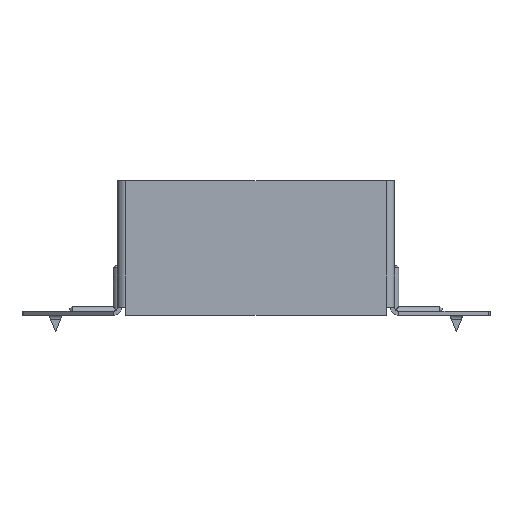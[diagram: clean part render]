
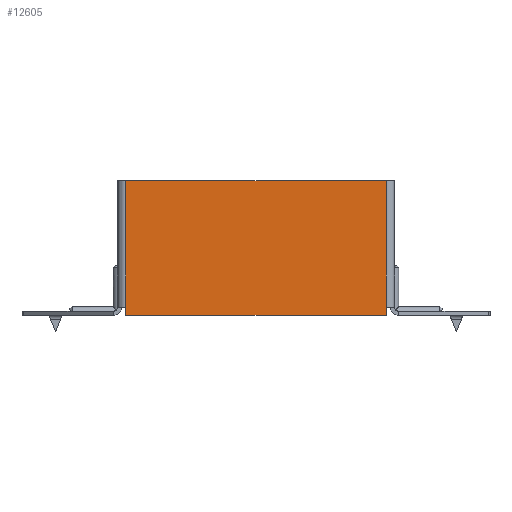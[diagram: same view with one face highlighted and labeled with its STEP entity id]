
A CAD part, front view. The second image highlights one B-rep face of the part: STEP entity #12605.
In plain terms, the highlighted planar face has unit normal (0, -1, 0).
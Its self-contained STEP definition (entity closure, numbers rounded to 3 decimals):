
#265 = CARTESIAN_POINT ( 'NONE',  ( 0., 0., 0. ) ) ;
#270 = VERTEX_POINT ( 'NONE', #9796 ) ;
#415 = LINE ( 'NONE', #10658, #7175 ) ;
#717 = VECTOR ( 'NONE', #13829, 1000. ) ;
#1429 = ORIENTED_EDGE ( 'NONE', *, *, #3707, .T. ) ;
#1651 = ORIENTED_EDGE ( 'NONE', *, *, #15498, .T. ) ;
#1768 = EDGE_CURVE ( 'NONE', #6228, #270, #11461, .T. ) ;
#2272 = CARTESIAN_POINT ( 'NONE',  ( -50., 0., -70. ) ) ;
#3405 = VECTOR ( 'NONE', #12283, 1000. ) ;
#3509 = CARTESIAN_POINT ( 'NONE',  ( 48.5, 0., -20. ) ) ;
#3707 = EDGE_CURVE ( 'NONE', #11641, #11719, #11119, .T. ) ;
#3776 = ORIENTED_EDGE ( 'NONE', *, *, #14484, .F. ) ;
#4145 = VECTOR ( 'NONE', #12902, 1000. ) ;
#4771 = VERTEX_POINT ( 'NONE', #5820 ) ;
#5625 = VECTOR ( 'NONE', #16150, 1000. ) ;
#5820 = CARTESIAN_POINT ( 'NONE',  ( -48.5, 0., -70. ) ) ;
#5897 = FACE_OUTER_BOUND ( 'NONE', #14469, .T. ) ;
#5952 = CARTESIAN_POINT ( 'NONE',  ( 48.5, 0., -70. ) ) ;
#6228 = VERTEX_POINT ( 'NONE', #9838 ) ;
#6348 = LINE ( 'NONE', #6553, #717 ) ;
#6405 = AXIS2_PLACEMENT_3D ( 'NONE', #265, #15991, #10453 ) ;
#6553 = CARTESIAN_POINT ( 'NONE',  ( 0., 0., -20. ) ) ;
#7013 = LINE ( 'NONE', #2272, #3405 ) ;
#7115 = CARTESIAN_POINT ( 'NONE',  ( 48.5, 0., -70. ) ) ;
#7175 = VECTOR ( 'NONE', #10532, 1000. ) ;
#7652 = LINE ( 'NONE', #12592, #14335 ) ;
#7656 = EDGE_CURVE ( 'NONE', #15478, #6228, #6348, .T. ) ;
#8550 = ORIENTED_EDGE ( 'NONE', *, *, #7656, .T. ) ;
#9123 = CARTESIAN_POINT ( 'NONE',  ( -48.5, 0., 0. ) ) ;
#9796 = CARTESIAN_POINT ( 'NONE',  ( -48.5, 0., -67. ) ) ;
#9838 = CARTESIAN_POINT ( 'NONE',  ( -48.5, 0., -20. ) ) ;
#10453 = DIRECTION ( 'NONE',  ( 0., 0., 1. ) ) ;
#10532 = DIRECTION ( 'NONE',  ( 0., 0., -1. ) ) ;
#10537 = ORIENTED_EDGE ( 'NONE', *, *, #1768, .T. ) ;
#10658 = CARTESIAN_POINT ( 'NONE',  ( -48.5, 0., 0. ) ) ;
#11119 = LINE ( 'NONE', #7115, #4145 ) ;
#11461 = LINE ( 'NONE', #9123, #5625 ) ;
#11641 = VERTEX_POINT ( 'NONE', #5952 ) ;
#11719 = VERTEX_POINT ( 'NONE', #16244 ) ;
#12283 = DIRECTION ( 'NONE',  ( -1., 0., 0. ) ) ;
#12592 = CARTESIAN_POINT ( 'NONE',  ( 48.5, 0., -70. ) ) ;
#12605 = ADVANCED_FACE ( 'NONE', ( #5897 ), #13387, .F. ) ;
#12902 = DIRECTION ( 'NONE',  ( 0., 0., 1. ) ) ;
#13387 = PLANE ( 'NONE',  #6405 ) ;
#13829 = DIRECTION ( 'NONE',  ( -1., 0., 0. ) ) ;
#13962 = DIRECTION ( 'NONE',  ( 0., 0., 1. ) ) ;
#14335 = VECTOR ( 'NONE', #13962, 1000. ) ;
#14469 = EDGE_LOOP ( 'NONE', ( #8550, #10537, #17297, #3776, #1429, #1651 ) ) ;
#14484 = EDGE_CURVE ( 'NONE', #11641, #4771, #7013, .T. ) ;
#15478 = VERTEX_POINT ( 'NONE', #3509 ) ;
#15498 = EDGE_CURVE ( 'NONE', #11719, #15478, #7652, .T. ) ;
#15991 = DIRECTION ( 'NONE',  ( 0., 1., 0. ) ) ;
#16150 = DIRECTION ( 'NONE',  ( 0., 0., -1. ) ) ;
#16244 = CARTESIAN_POINT ( 'NONE',  ( 48.5, 0., -67. ) ) ;
#17297 = ORIENTED_EDGE ( 'NONE', *, *, #17444, .T. ) ;
#17444 = EDGE_CURVE ( 'NONE', #270, #4771, #415, .T. ) ;
